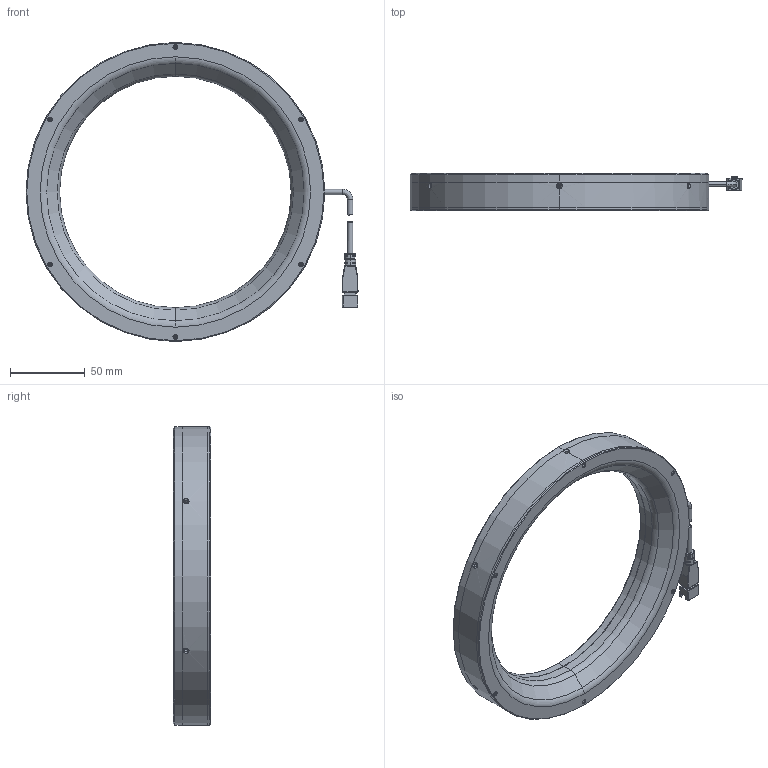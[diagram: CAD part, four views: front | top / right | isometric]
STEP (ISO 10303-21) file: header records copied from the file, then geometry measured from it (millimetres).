
FILE_DESCRIPTION (( 'STEP AP203' ), '1' );
FILE_NAME ('CST-RS20045-潠眢3D芞.STEP', '2021-05-21T08:39:56', ( 'China' ), ( 'Home' ), 'SwSTEP 2.0', 'SolidWorks 2018', '' );
FILE_SCHEMA (( 'CONFIG_CONTROL_DESIGN' ));
Length unit declared in the file: millimetre
Products named in the file (1): CST-RS20045-潠眢3D芞
Bounding box: 222.25 x 25 x 200 mm (x, y, z)
Surface area: 72611 mm2 (no closed solid volume)
Topology: 0 solids, 5 shells, 266 faces, 797 edges, 520 vertices
Faces by surface type: plane 112, cylinder 105, cone 34, bspline 11, torus 4
Entity records: 10305 total; most frequent: CARTESIAN_POINT 3153, DIRECTION 1475, ORIENTED_EDGE 1387, EDGE_CURVE 795, VERTEX_POINT 520, AXIS2_PLACEMENT_3D 518, LINE 439, VECTOR 439
